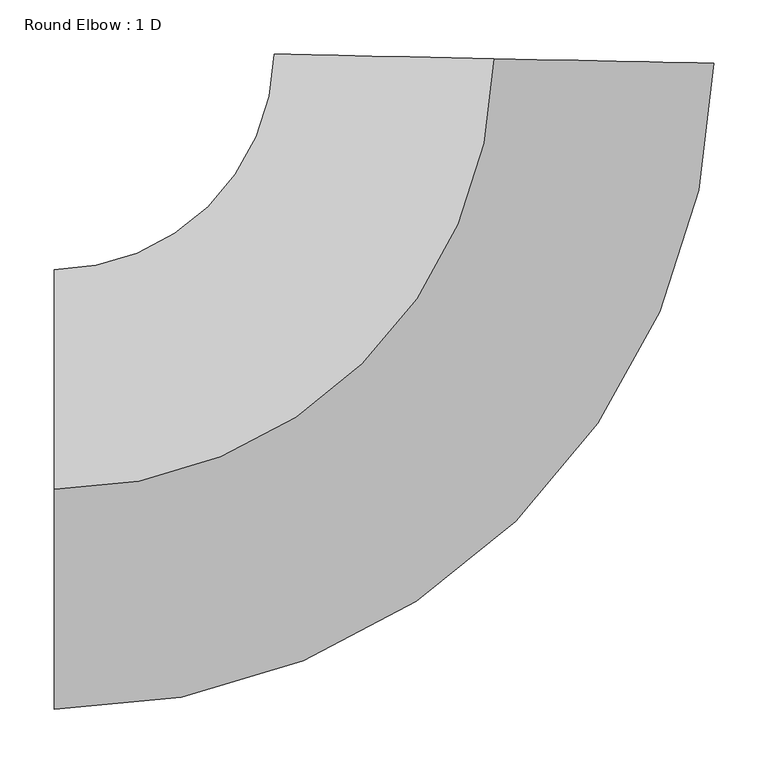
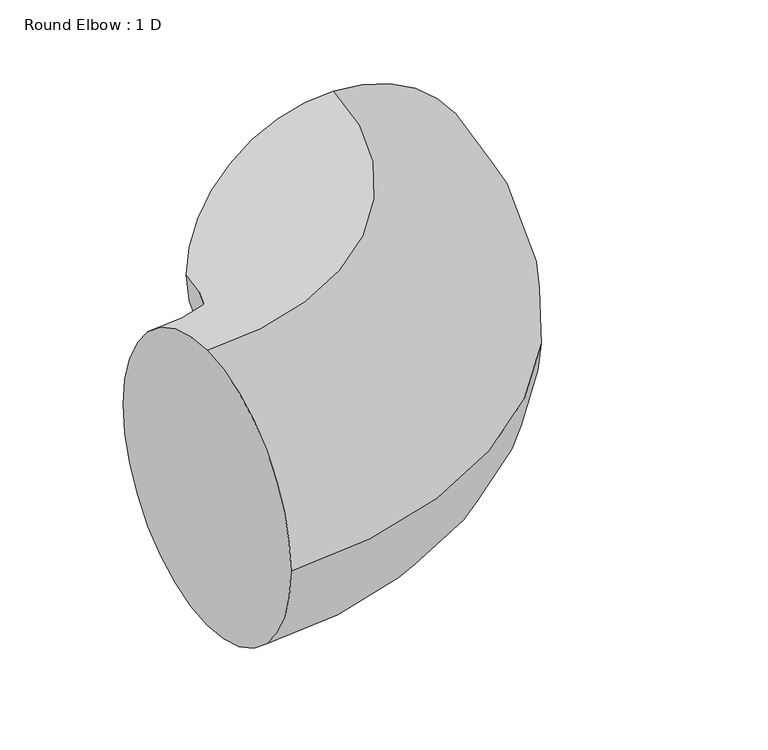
"""IFC4 building model written with IfcOpenShell, lengths in millimetres: duct fitting geometry, Round Elbow : 1 D."""

from ifc_helpers import new_model, si_unit, point, frame, origin, place, context, project, spatial, circle_curve, ellipse_curve, trimmed, source, transform, mapped, element, save
from ifc_brep_helpers import plane_surface, revolved_surface, advanced_brep


def round_elbow_1_d_06294a75(model_context):
    return source(origin(), model_context, "Body", "AdvancedBrep", [
        advanced_brep(
        [(-398.0215182, 0.0, 203.2), (-398.0215182, 203.2, 0.0), (-398.0215182, 0.0, -203.2), (-398.0215182, -203.2, 0.0), (8.290316, 397.9351701, 203.2), (211.4462332, 393.7027552, 0.0), (8.290316, 397.9351701, -203.2), (-194.8656011, 402.1675851, 0.0)],
        [
            (0, 1, circle_curve(frame((-398.0215182, 0.0, 0.0), z_axis=(-1.0, 0.0, 0.0), x_axis=(0.0, 1.0, 0.0)), 203.2)),
            (1, 2, circle_curve(frame((-398.0215182, 0.0, 0.0), z_axis=(-1.0, 0.0, 0.0), x_axis=(0.0, 1.0, 0.0)), 203.2)),
            (2, 3, circle_curve(frame((-398.0215182, 0.0, 0.0), z_axis=(-1.0, 0.0, 0.0), x_axis=(0.0, 1.0, 0.0)), 203.2)),
            (3, 0, circle_curve(frame((-398.0215182, 0.0, 0.0), z_axis=(-1.0, 0.0, 0.0), x_axis=(0.0, 1.0, 0.0)), 203.2)),
            (4, 5, circle_curve(frame((8.290316, 397.9351701, 0.0), z_axis=(0.02082881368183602, 0.9997830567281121, 0.0), x_axis=(-0.9997830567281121, 0.02082881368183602, 0.0)), 203.2)),
            (5, 6, circle_curve(frame((8.290316, 397.9351701, 0.0), z_axis=(0.02082881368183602, 0.9997830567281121, 0.0), x_axis=(-0.9997830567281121, 0.02082881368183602, 0.0)), 203.2)),
            (6, 7, circle_curve(frame((8.290316, 397.9351701, 0.0), z_axis=(0.02082881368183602, 0.9997830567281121, 0.0), x_axis=(-0.9997830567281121, 0.02082881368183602, 0.0)), 203.2)),
            (7, 4, circle_curve(frame((8.290316, 397.9351701, 0.0), z_axis=(0.02082881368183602, 0.9997830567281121, 0.0), x_axis=(-0.9997830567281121, 0.02082881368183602, 0.0)), 203.2)),
            (7, 1, circle_curve(frame((-398.0215182, 406.4, 0.0), z_axis=(0.0, 0.0, -1.0), x_axis=(0.0, -1.0, 0.0)), 203.2)),
            (0, 4, circle_curve(frame((-398.0215182, 406.4, 203.2), z_axis=(0.0, 0.0, 1.0), x_axis=(0.0, -1.0, 0.0)), 406.4)),
            (6, 2, circle_curve(frame((-398.0215182, 406.4, -203.2), z_axis=(0.0, 0.0, -1.0), x_axis=(0.0, -1.0, 0.0)), 406.4)),
            (5, 3, circle_curve(frame((-398.0215182, 406.4, 0.0), z_axis=(0.0, 0.0, -1.0), x_axis=(0.0, -1.0, 0.0)), 609.6)),
        ],
        [
            plane_surface(frame((-398.0215182, 0.0, 0.0), z_axis=(-1.0, 0.0, 0.0), x_axis=(0.0, 0.0, 1.0))),
            plane_surface(frame((8.290316, 397.9351701, 0.0), z_axis=(0.020828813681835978, 0.9997830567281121, 0.0), x_axis=(0.0, 0.0, 1.0))),
            revolved_surface(trimmed(ellipse_curve(frame((-398.0215182, 0.0, 0.0), z_axis=(-1.0, 0.0, 0.0), x_axis=(0.0, 1.0, 0.0)), 203.2, 203.2), [point((-398.0215182, 0.0, 203.2))], [point((-398.0215182, 203.2, 0.0))], True, "CARTESIAN"), (-398.0215182, 406.4, 0.0), (0.0, 0.0, 1.0)),
            revolved_surface(trimmed(ellipse_curve(frame((-398.0215182, 0.0, 0.0), z_axis=(-1.0, 0.0, 0.0), x_axis=(0.0, 1.0, 0.0)), 203.2, 203.2), [point((-398.0215182, 203.2, 0.0))], [point((-398.0215182, 0.0, -203.2))], True, "CARTESIAN"), (-398.0215182, 406.4, 0.0), (0.0, 0.0, 1.0)),
            revolved_surface(trimmed(ellipse_curve(frame((-398.0215182, 0.0, 0.0), z_axis=(-1.0, 0.0, 0.0), x_axis=(0.0, 1.0, 0.0)), 203.2, 203.2), [point((-398.0215182, 0.0, -203.2))], [point((-398.0215182, -203.2, 0.0))], True, "CARTESIAN"), (-398.0215182, 406.4, 0.0), (0.0, 0.0, 1.0)),
            revolved_surface(trimmed(ellipse_curve(frame((-398.0215182, 0.0, 0.0), z_axis=(-1.0, 0.0, 0.0), x_axis=(0.0, 1.0, 0.0)), 203.2, 203.2), [point((-398.0215182, -203.2, 0.0))], [point((-398.0215182, 0.0, 203.2))], True, "CARTESIAN"), (-398.0215182, 406.4, 0.0), (0.0, 0.0, 1.0)),
        ],
        [
            (0, [[1, 2, 3, 4]]),
            (1, [[5, 6, 7, 8]]),
            (2, [[9, -1, 10, -8]]),
            (3, [[11, -2, -9, -7]]),
            (4, [[12, -3, -11, -6]]),
            (5, [[-10, -4, -12, -5]]),
        ],
    ),
    ])


if __name__ == "__main__":
    model = new_model("IFC4")
    model_context = context("Model", 3, world=origin())
    ifc_project = project(units=[si_unit("LENGTHUNIT", "METRE", prefix="MILLI")], contexts=[model_context])
    site = spatial("IfcSite", under=ifc_project)
    building = spatial("IfcBuilding", under=site)
    placement = place(None, origin())
    round_elbow_1_d_shape = round_elbow_1_d_06294a75(model_context)
    element("IfcDuctFitting", 1, ObjectType="Round Elbow : 1 D", at=placement, inside=building, context=model_context, shape_type="MappedRepresentation", body=[
        mapped(round_elbow_1_d_shape, transform((0.0, 0.0, 0.0), x_axis=(1.0, 0.0, 0.0), y_axis=(0.0, 1.0, 0.0), z_axis=(0.0, 0.0, 1.0))),
    ])
    save(model, "model.ifc")
